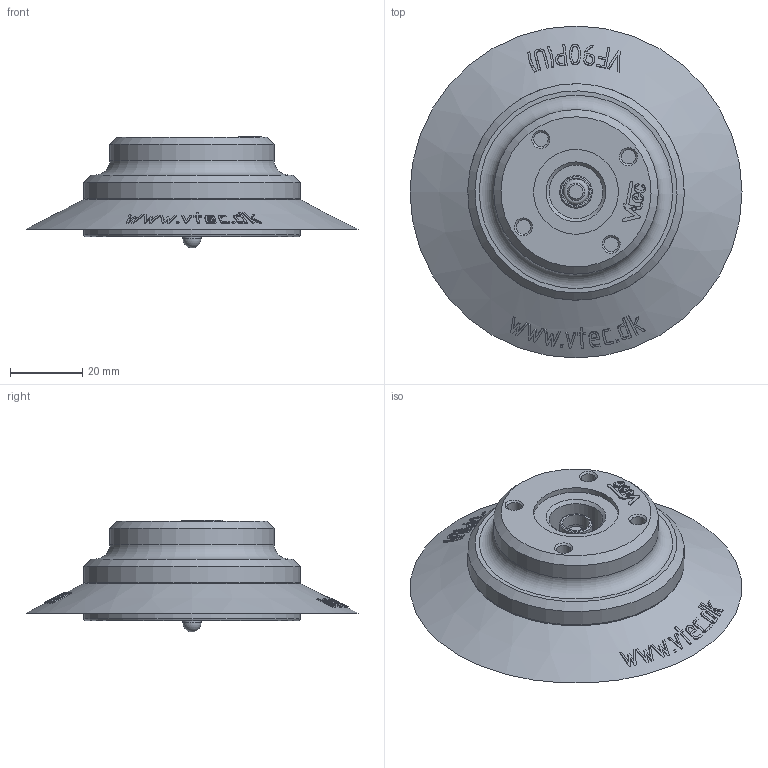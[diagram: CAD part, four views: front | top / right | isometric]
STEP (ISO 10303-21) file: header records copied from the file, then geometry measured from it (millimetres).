
FILE_DESCRIPTION( ( 'Unknown' ), '1' );
FILE_NAME( 'C:/Documents and Settings/owner/官帕 拳搁/MISUMI/PAD/VF/VF90-PU-38FA-BV.stp', 'Unknown', ( 'Unknown' ), ( 'Unknown' ), 'XStep 1.0', 'Unknown', ' ' );
FILE_SCHEMA( ( 'automotive_design' ) );
Length unit declared in the file: millimetre
Products named in the file (5): Assem1; 1_6; 2_6; VF75 BV
Bounding box: 92 x 92 x 31 mm (x, y, z)
Volume: 102363.5 mm3; surface area: 56954.3 mm2
Topology: 8 solids, 8 shells, 1308 faces, 3514 edges, 2322 vertices
Faces by surface type: plane 728, cylinder 320, bspline 128, cone 80, extrusion 40, torus 10, sphere 2
Full cylindrical faces by diameter (mm): 0.791 x2, 4 x16, 4.9 x2, 5 x2, 6.4 x8, 7.5 x2, 9 x2, 10.5 x2, 11 x2, 14.9 x2, 15 x4, 23.5 x2, 25 x2, 45.6 x2, 55 x4, 60 x2
Entity records: 31097 total; most frequent: CARTESIAN_POINT 11178, ORIENTED_EDGE 3368, DIRECTION 2943, EDGE_CURVE 1684, VERTEX_POINT 1140, AXIS2_PLACEMENT_3D 983, VECTOR 977, LINE 957
